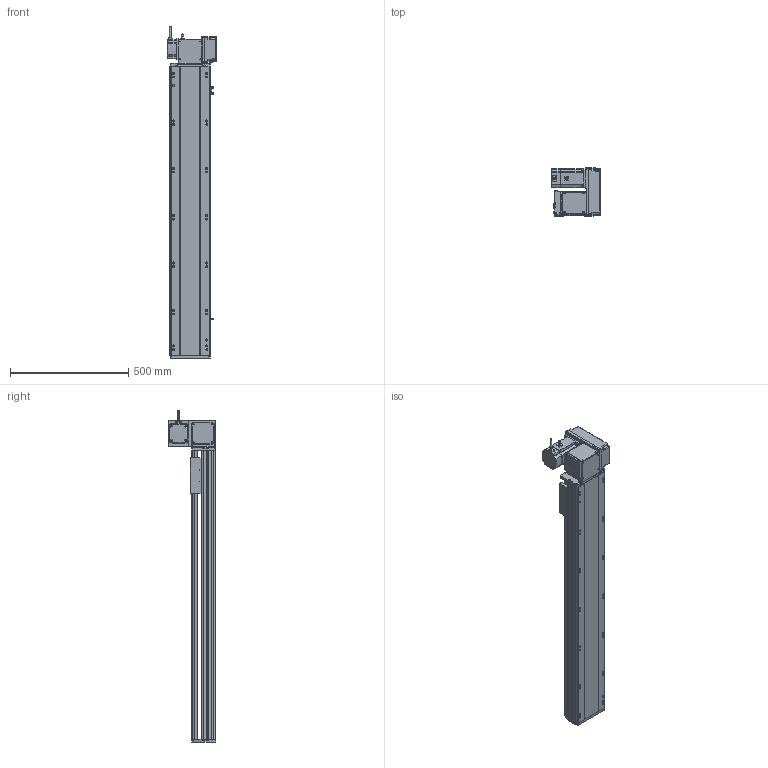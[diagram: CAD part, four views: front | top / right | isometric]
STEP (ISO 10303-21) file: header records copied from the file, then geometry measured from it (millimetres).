
FILE_DESCRIPTION (( 'STEP AP214' ), '1' );
FILE_NAME ('RTB17S-XX-950-RW-M75-C4.STEP', '2025-12-12T02:35:42', ( '' ), ( '' ), 'SwSTEP 2.0', 'SolidWorks 2018', '' );
FILE_SCHEMA (( 'AUTOMOTIVE_DESIGN' ));
Length unit declared in the file: millimetre
Products named in the file (15): RTB17S-L-007奻裔^RTB17S-XX-XX-RW-M75-C4; RTB22S-GY-018P^RTB17S-RW-々湍釱蚾饜-750W_RTB17S-XX-XX-RW-M75-C4; RTB17S-賑釱^RTB17S-XX-XX-RW-M75-C4; RMP17S-L-014-T20-P75--々湍釱^RTB17S-RW-々湍釱蚾饜-750W_RTB17S-XX-XX-RW-M75-C4; RTB17S-L-004-賑釱^RTB17S-賑釱_RTB17S-XX-XX-RW-M75-C4; RTB17S-L-001-耜醱啣^RTB17S-XX-XX-RW-M75-C4; EE672^RTB17S-XX-XX-RW-M75-C4; RTB17S-XX-950-RW-M75-C4; RTB22S-GY-017P^RTB17S-RW-々湍釱蚾饜-750W_RTB17S-XX-XX-RW-M75-C4; RTB17-R-011菁釱^RTB17S-XX-XX-RW-M75-C4; RTB22S-GY-008-M75--萇儂啣^RTB17S-RW-々湍釱蚾饜-750W_RTB17S-XX-XX-RW-M75-C4; 750W萇儂^RTB17S-XX-XX-RW-M75-C4; RTB17S-RW-々湍釱蚾饜-750W^RTB17S-XX-XX-RW-M75-C4; RTB22S-GY-005P^RTB17S-RW-々湍釱蚾饜-750W_RTB17S-XX-XX-RW-M75-C4; RTH13-BL-012覜茼え俋离^RTB17S-賑釱_RTB17S-XX-XX-RW-M75-C4
Assembly tree (17 placements, depth 3):
  RTB17S-XX-950-RW-M75-C4
    RTB17-R-011菁釱^RTB17S-XX-XX-RW-M75-C4
    EE672^RTB17S-XX-XX-RW-M75-C4  x3
    RTB17S-L-001-耜醱啣^RTB17S-XX-XX-RW-M75-C4
    RTB17S-賑釱^RTB17S-XX-XX-RW-M75-C4
      RTB17S-L-004-賑釱^RTB17S-賑釱_RTB17S-XX-XX-RW-M75-C4
      RTH13-BL-012覜茼え俋离^RTB17S-賑釱_RTB17S-XX-XX-RW-M75-C4
    RTB17S-L-007奻裔^RTB17S-XX-XX-RW-M75-C4
    750W萇儂^RTB17S-XX-XX-RW-M75-C4
    RTB17S-RW-々湍釱蚾饜-750W^RTB17S-XX-XX-RW-M75-C4
      RMP17S-L-014-T20-P75--々湍釱^RTB17S-RW-々湍釱蚾饜-750W_RTB17S-XX-XX-RW-M75-C4
      RTB22S-GY-005P^RTB17S-RW-々湍釱蚾饜-750W_RTB17S-XX-XX-RW-M75-C4
      RTB22S-GY-017P^RTB17S-RW-々湍釱蚾饜-750W_RTB17S-XX-XX-RW-M75-C4  x2
      RTB22S-GY-008-M75--萇儂啣^RTB17S-RW-々湍釱蚾饜-750W_RTB17S-XX-XX-RW-M75-C4
      RTB22S-GY-018P^RTB17S-RW-々湍釱蚾饜-750W_RTB17S-XX-XX-RW-M75-C4
Bounding box: 207.4 x 201.5 x 1402.2 mm (x, y, z)
Volume: 11888581.1 mm3; surface area: 2009502.6 mm2
Topology: 17 solids, 17 shells, 2089 faces, 5782 edges, 3734 vertices
Faces by surface type: plane 970, cylinder 703, bspline 294, cone 110, sphere 8, torus 4
Entity records: 58102 total; most frequent: CARTESIAN_POINT 17046, ORIENTED_EDGE 8408, DIRECTION 7862, EDGE_CURVE 4204, AXIS2_PLACEMENT_3D 2754, VERTEX_POINT 2738, VECTOR 2354, LINE 2354
